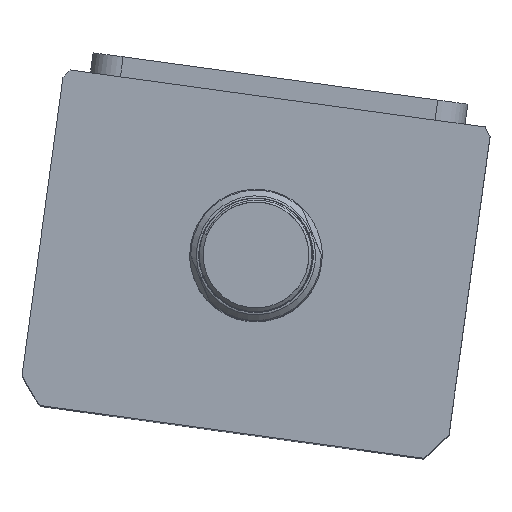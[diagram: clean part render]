
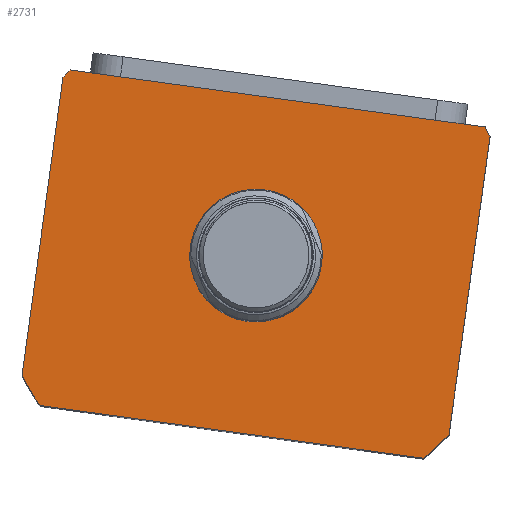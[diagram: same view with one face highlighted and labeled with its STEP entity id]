
A CAD part, top view. The second image highlights one B-rep face of the part: STEP entity #2731.
In plain terms, the highlighted planar face has unit normal (0, 0, 1) as drawn and (0, 0, -1) by its records, which use the part's own axes.
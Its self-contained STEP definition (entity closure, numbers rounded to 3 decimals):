
#409 = ORIENTED_EDGE ( 'NONE', *, *, #25657, .F. ) ;
#1058 = AXIS2_PLACEMENT_3D ( 'NONE', #10045, #25102, #12218 ) ;
#1070 = DIRECTION ( 'NONE',  ( 1., 0., 0. ) ) ;
#1102 = CIRCLE ( 'NONE', #5606, 69.5 ) ;
#1361 = DIRECTION ( 'NONE',  ( 0., 0., 1. ) ) ;
#1514 = DIRECTION ( 'NONE',  ( 0., 1., 0. ) ) ;
#2115 = EDGE_CURVE ( 'NONE', #6162, #19607, #27008, .T. ) ;
#2309 = CIRCLE ( 'NONE', #1058, 69.5 ) ;
#2570 = EDGE_CURVE ( 'NONE', #19607, #25786, #17007, .T. ) ;
#2731 = ADVANCED_FACE ( 'NONE', ( #20018, #20688 ), #14908, .F. ) ;
#2840 = VERTEX_POINT ( 'NONE', #17820 ) ;
#2890 = VERTEX_POINT ( 'NONE', #11428 ) ;
#3110 = DIRECTION ( 'NONE',  ( 0., -1., 0. ) ) ;
#3139 = CIRCLE ( 'NONE', #16236, 17.5 ) ;
#3145 = CARTESIAN_POINT ( 'NONE',  ( -57., -106.497, 0. ) ) ;
#3261 = ORIENTED_EDGE ( 'NONE', *, *, #27411, .T. ) ;
#3485 = VERTEX_POINT ( 'NONE', #16781 ) ;
#3750 = AXIS2_PLACEMENT_3D ( 'NONE', #19704, #6813, #21875 ) ;
#3892 = CARTESIAN_POINT ( 'NONE',  ( 55.374, -17.497, 0. ) ) ;
#4120 = DIRECTION ( 'NONE',  ( 0., 0., 1. ) ) ;
#4714 = CARTESIAN_POINT ( 'NONE',  ( 51.198, -106.497, 0. ) ) ;
#5284 = CARTESIAN_POINT ( 'NONE',  ( -57., -17.497, 0. ) ) ;
#5545 = ORIENTED_EDGE ( 'NONE', *, *, #9692, .F. ) ;
#5606 = AXIS2_PLACEMENT_3D ( 'NONE', #14278, #1361, #16432 ) ;
#6162 = VERTEX_POINT ( 'NONE', #20703 ) ;
#6198 = EDGE_CURVE ( 'NONE', #21672, #2890, #16588, .T. ) ;
#6813 = DIRECTION ( 'NONE',  ( 0., 0., 1. ) ) ;
#6998 = DIRECTION ( 'NONE',  ( -1., 0., 0. ) ) ;
#8026 = CARTESIAN_POINT ( 'NONE',  ( 17.5, -59.497, 0. ) ) ;
#8112 = CARTESIAN_POINT ( 'NONE',  ( 57., -17.497, 0. ) ) ;
#8346 = EDGE_CURVE ( 'NONE', #2840, #10477, #3139, .T. ) ;
#8507 = EDGE_CURVE ( 'NONE', #2890, #16288, #1102, .T. ) ;
#9311 = DIRECTION ( 'NONE',  ( 0., 0., 1. ) ) ;
#9692 = EDGE_CURVE ( 'NONE', #15399, #3485, #19623, .T. ) ;
#10038 = LINE ( 'NONE', #5284, #25879 ) ;
#10045 = CARTESIAN_POINT ( 'NONE',  ( 0., -59.497, 0. ) ) ;
#10477 = VERTEX_POINT ( 'NONE', #8026 ) ;
#11223 = CARTESIAN_POINT ( 'NONE',  ( -55.374, -17.497, 0. ) ) ;
#11428 = CARTESIAN_POINT ( 'NONE',  ( 57., -19.732, 0. ) ) ;
#11741 = DIRECTION ( 'NONE',  ( 0., 0., 1. ) ) ;
#12218 = DIRECTION ( 'NONE',  ( 1., 0., 0. ) ) ;
#12826 = ORIENTED_EDGE ( 'NONE', *, *, #8346, .T. ) ;
#13762 = AXIS2_PLACEMENT_3D ( 'NONE', #22210, #9311, #24379 ) ;
#14011 = DIRECTION ( 'NONE',  ( 0., 0., 1. ) ) ;
#14161 = EDGE_CURVE ( 'NONE', #3485, #6162, #10038, .T. ) ;
#14278 = CARTESIAN_POINT ( 'NONE',  ( 0., -59.497, 0. ) ) ;
#14908 = PLANE ( 'NONE',  #3750 ) ;
#15399 = VERTEX_POINT ( 'NONE', #11223 ) ;
#15652 = ORIENTED_EDGE ( 'NONE', *, *, #6198, .F. ) ;
#16038 = DIRECTION ( 'NONE',  ( 1., 0., 0. ) ) ;
#16236 = AXIS2_PLACEMENT_3D ( 'NONE', #24622, #11741, #26782 ) ;
#16288 = VERTEX_POINT ( 'NONE', #3892 ) ;
#16432 = DIRECTION ( 'NONE',  ( 1., 0., 0. ) ) ;
#16555 = CARTESIAN_POINT ( 'NONE',  ( -51.198, -106.497, 0. ) ) ;
#16588 = LINE ( 'NONE', #8112, #22990 ) ;
#16750 = VECTOR ( 'NONE', #6998, 1000. ) ;
#16781 = CARTESIAN_POINT ( 'NONE',  ( -57., -19.732, 0. ) ) ;
#16838 = ORIENTED_EDGE ( 'NONE', *, *, #2570, .F. ) ;
#17007 = LINE ( 'NONE', #3145, #22722 ) ;
#17018 = CARTESIAN_POINT ( 'NONE',  ( 0., -59.497, 0. ) ) ;
#17820 = CARTESIAN_POINT ( 'NONE',  ( -17.5, -59.497, 0. ) ) ;
#19187 = DIRECTION ( 'NONE',  ( 1., 0., 0. ) ) ;
#19607 = VERTEX_POINT ( 'NONE', #16555 ) ;
#19623 = CIRCLE ( 'NONE', #19983, 69.5 ) ;
#19704 = CARTESIAN_POINT ( 'NONE',  ( 0., 0., 0. ) ) ;
#19881 = CARTESIAN_POINT ( 'NONE',  ( -57., -17.497, 0. ) ) ;
#19983 = AXIS2_PLACEMENT_3D ( 'NONE', #26878, #14011, #1070 ) ;
#20018 = FACE_BOUND ( 'NONE', #20974, .T. ) ;
#20187 = ORIENTED_EDGE ( 'NONE', *, *, #14161, .F. ) ;
#20688 = FACE_OUTER_BOUND ( 'NONE', #21774, .T. ) ;
#20703 = CARTESIAN_POINT ( 'NONE',  ( -57., -99.262, 0. ) ) ;
#20974 = EDGE_LOOP ( 'NONE', ( #3261, #12826 ) ) ;
#21672 = VERTEX_POINT ( 'NONE', #27625 ) ;
#21774 = EDGE_LOOP ( 'NONE', ( #26301, #15652, #21820, #16838, #22111, #20187, #5545, #409 ) ) ;
#21820 = ORIENTED_EDGE ( 'NONE', *, *, #23934, .F. ) ;
#21875 = DIRECTION ( 'NONE',  ( 1., 0., 0. ) ) ;
#22111 = ORIENTED_EDGE ( 'NONE', *, *, #2115, .F. ) ;
#22210 = CARTESIAN_POINT ( 'NONE',  ( 0., -59.497, 0. ) ) ;
#22722 = VECTOR ( 'NONE', #16038, 1000. ) ;
#22990 = VECTOR ( 'NONE', #1514, 1000. ) ;
#23934 = EDGE_CURVE ( 'NONE', #25786, #21672, #2309, .T. ) ;
#24379 = DIRECTION ( 'NONE',  ( 1., 0., 0. ) ) ;
#24622 = CARTESIAN_POINT ( 'NONE',  ( 0., -59.497, 0. ) ) ;
#25102 = DIRECTION ( 'NONE',  ( 0., 0., 1. ) ) ;
#25657 = EDGE_CURVE ( 'NONE', #16288, #15399, #27516, .T. ) ;
#25786 = VERTEX_POINT ( 'NONE', #4714 ) ;
#25879 = VECTOR ( 'NONE', #3110, 1000. ) ;
#26152 = CIRCLE ( 'NONE', #13762, 17.5 ) ;
#26242 = AXIS2_PLACEMENT_3D ( 'NONE', #17018, #4120, #19187 ) ;
#26301 = ORIENTED_EDGE ( 'NONE', *, *, #8507, .F. ) ;
#26782 = DIRECTION ( 'NONE',  ( 1., 0., 0. ) ) ;
#26878 = CARTESIAN_POINT ( 'NONE',  ( 0., -59.497, 0. ) ) ;
#27008 = CIRCLE ( 'NONE', #26242, 69.5 ) ;
#27411 = EDGE_CURVE ( 'NONE', #10477, #2840, #26152, .T. ) ;
#27516 = LINE ( 'NONE', #19881, #16750 ) ;
#27625 = CARTESIAN_POINT ( 'NONE',  ( 57., -99.262, 0. ) ) ;
